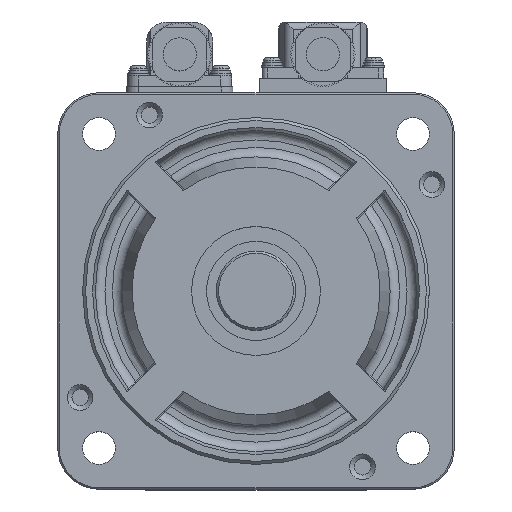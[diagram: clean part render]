
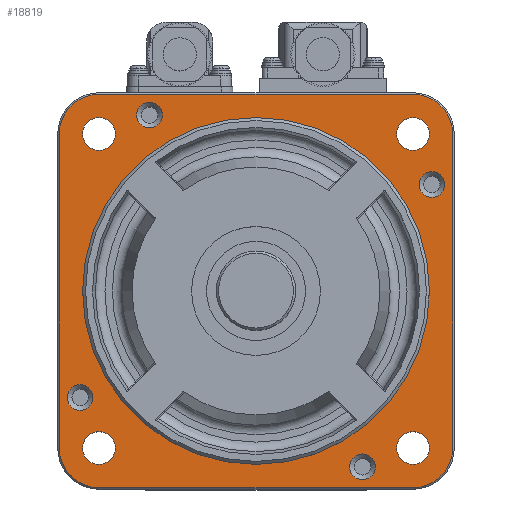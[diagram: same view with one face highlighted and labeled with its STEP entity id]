
A CAD part, top view. The second image highlights one B-rep face of the part: STEP entity #18819.
In plain terms, the highlighted planar face has unit normal (0, 0, 1).
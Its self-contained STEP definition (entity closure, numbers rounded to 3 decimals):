
#18287=CARTESIAN_POINT('',(-31.7,-39.7,0.0));
#18288=VERTEX_POINT('',#18287);
#18305=CARTESIAN_POINT('',(31.7,-39.7,0.0));
#18306=VERTEX_POINT('',#18305);
#18313=CARTESIAN_POINT('',(31.7,-39.7,0.0));
#18314=DIRECTION('',(-1.0,0.0,0.0));
#18315=VECTOR('',#18314,63.4);
#18316=LINE('',#18313,#18315);
#18317=EDGE_CURVE('',#18306,#18288,#18316,.T.);
#18327=CARTESIAN_POINT('',(-39.7,-31.7,0.0));
#18328=VERTEX_POINT('',#18327);
#18345=CARTESIAN_POINT('',(-31.7,-31.7,0.0));
#18346=DIRECTION('',(0.0,0.0,-1.0));
#18347=DIRECTION('',(-1.0,0.0,0.0));
#18348=AXIS2_PLACEMENT_3D('',#18345,#18346,#18347);
#18349=CIRCLE('',#18348,8.);
#18350=EDGE_CURVE('',#18288,#18328,#18349,.T.);
#18362=CARTESIAN_POINT('',(39.7,-31.7,0.0));
#18363=VERTEX_POINT('',#18362);
#18370=CARTESIAN_POINT('',(31.7,-31.7,0.0));
#18371=DIRECTION('',(0.0,0.0,-1.0));
#18372=DIRECTION('',(0.0,-1.0,0.0));
#18373=AXIS2_PLACEMENT_3D('',#18370,#18371,#18372);
#18374=CIRCLE('',#18373,8.);
#18375=EDGE_CURVE('',#18363,#18306,#18374,.T.);
#18393=CARTESIAN_POINT('',(-39.7,31.7,0.0));
#18394=VERTEX_POINT('',#18393);
#18410=CARTESIAN_POINT('',(-39.7,-31.7,0.0));
#18411=DIRECTION('',(0.0,1.0,0.0));
#18412=VECTOR('',#18411,63.4);
#18413=LINE('',#18410,#18412);
#18414=EDGE_CURVE('',#18328,#18394,#18413,.T.);
#18426=CARTESIAN_POINT('',(39.7,31.7,0.0));
#18427=VERTEX_POINT('',#18426);
#18434=CARTESIAN_POINT('',(39.7,31.7,0.0));
#18435=DIRECTION('',(0.0,-1.0,0.0));
#18436=VECTOR('',#18435,63.4);
#18437=LINE('',#18434,#18436);
#18438=EDGE_CURVE('',#18427,#18363,#18437,.T.);
#18455=CARTESIAN_POINT('',(-31.7,39.7,0.0));
#18456=VERTEX_POINT('',#18455);
#18473=CARTESIAN_POINT('',(-31.7,31.7,0.0));
#18474=DIRECTION('',(0.0,0.0,-1.0));
#18475=DIRECTION('',(0.0,1.0,0.0));
#18476=AXIS2_PLACEMENT_3D('',#18473,#18474,#18475);
#18477=CIRCLE('',#18476,8.);
#18478=EDGE_CURVE('',#18394,#18456,#18477,.T.);
#18490=CARTESIAN_POINT('',(31.7,39.7,0.0));
#18491=VERTEX_POINT('',#18490);
#18498=CARTESIAN_POINT('',(31.7,31.7,0.0));
#18499=DIRECTION('',(0.0,0.0,-1.0));
#18500=DIRECTION('',(1.0,0.0,0.0));
#18501=AXIS2_PLACEMENT_3D('',#18498,#18499,#18500);
#18502=CIRCLE('',#18501,8.);
#18503=EDGE_CURVE('',#18491,#18427,#18502,.T.);
#18522=CARTESIAN_POINT('',(-31.7,39.7,0.0));
#18523=DIRECTION('',(1.0,0.0,0.0));
#18524=VECTOR('',#18523,63.4);
#18525=LINE('',#18522,#18524);
#18526=EDGE_CURVE('',#18456,#18491,#18525,.T.);
#18705=CARTESIAN_POINT('',(0.,0.,0.0));
#18706=DIRECTION('',(0.0,0.0,1.0));
#18707=DIRECTION('',(1.0,0.0,0.0));
#18708=AXIS2_PLACEMENT_3D('',#18705,#18706,#18707);
#18709=PLANE('',#18708);
#18710=ORIENTED_EDGE('',*,*,#18317,.F.);
#18711=ORIENTED_EDGE('',*,*,#18375,.F.);
#18712=ORIENTED_EDGE('',*,*,#18438,.F.);
#18713=ORIENTED_EDGE('',*,*,#18503,.F.);
#18714=ORIENTED_EDGE('',*,*,#18526,.F.);
#18715=ORIENTED_EDGE('',*,*,#18478,.F.);
#18716=ORIENTED_EDGE('',*,*,#18414,.F.);
#18717=ORIENTED_EDGE('',*,*,#18350,.F.);
#18718=EDGE_LOOP('',(#18710,#18711,#18712,#18713,#18714,#18715,#18716,#18717));
#18719=FACE_OUTER_BOUND('',#18718,.T.);
#18720=CARTESIAN_POINT('',(35.0,0.,0.0));
#18721=VERTEX_POINT('',#18720);
#18722=CARTESIAN_POINT('',(0.0,0.0,0.0));
#18723=DIRECTION('',(0.0,0.0,-1.0));
#18724=DIRECTION('',(-1.0,0.0,0.0));
#18725=AXIS2_PLACEMENT_3D('',#18722,#18723,#18724);
#18726=CIRCLE('',#18725,35.0);
#18727=EDGE_CURVE('',#18721,#18721,#18726,.T.);
#18728=ORIENTED_EDGE('',*,*,#18727,.T.);
#18729=EDGE_LOOP('',(#18728));
#18730=FACE_BOUND('',#18729,.T.);
#18731=CARTESIAN_POINT('',(-28.4,31.7,0.0));
#18732=VERTEX_POINT('',#18731);
#18733=CARTESIAN_POINT('',(-31.7,31.7,0.0));
#18734=DIRECTION('',(0.0,0.0,-1.0));
#18735=DIRECTION('',(-1.0,0.0,0.0));
#18736=AXIS2_PLACEMENT_3D('',#18733,#18734,#18735);
#18737=CIRCLE('',#18736,3.3);
#18738=EDGE_CURVE('',#18732,#18732,#18737,.T.);
#18739=ORIENTED_EDGE('',*,*,#18738,.T.);
#18740=EDGE_LOOP('',(#18739));
#18741=FACE_BOUND('',#18740,.T.);
#18742=CARTESIAN_POINT('',(31.7,28.4,0.0));
#18743=VERTEX_POINT('',#18742);
#18744=CARTESIAN_POINT('',(31.7,31.7,0.0));
#18745=DIRECTION('',(0.0,0.0,-1.0));
#18746=DIRECTION('',(0.0,1.0,0.0));
#18747=AXIS2_PLACEMENT_3D('',#18744,#18745,#18746);
#18748=CIRCLE('',#18747,3.3);
#18749=EDGE_CURVE('',#18743,#18743,#18748,.T.);
#18750=ORIENTED_EDGE('',*,*,#18749,.T.);
#18751=EDGE_LOOP('',(#18750));
#18752=FACE_BOUND('',#18751,.T.);
#18753=CARTESIAN_POINT('',(-31.7,-28.4,0.0));
#18754=VERTEX_POINT('',#18753);
#18755=CARTESIAN_POINT('',(-31.7,-31.7,0.0));
#18756=DIRECTION('',(0.0,0.0,-1.0));
#18757=DIRECTION('',(0.0,-1.0,0.0));
#18758=AXIS2_PLACEMENT_3D('',#18755,#18756,#18757);
#18759=CIRCLE('',#18758,3.3);
#18760=EDGE_CURVE('',#18754,#18754,#18759,.T.);
#18761=ORIENTED_EDGE('',*,*,#18760,.T.);
#18762=EDGE_LOOP('',(#18761));
#18763=FACE_BOUND('',#18762,.T.);
#18764=CARTESIAN_POINT('',(28.4,-31.7,0.0));
#18765=VERTEX_POINT('',#18764);
#18766=CARTESIAN_POINT('',(31.7,-31.7,0.0));
#18767=DIRECTION('',(0.0,0.0,-1.0));
#18768=DIRECTION('',(1.0,0.0,0.0));
#18769=AXIS2_PLACEMENT_3D('',#18766,#18767,#18768);
#18770=CIRCLE('',#18769,3.3);
#18771=EDGE_CURVE('',#18765,#18765,#18770,.T.);
#18772=ORIENTED_EDGE('',*,*,#18771,.T.);
#18773=EDGE_LOOP('',(#18772));
#18774=FACE_BOUND('',#18773,.T.);
#18775=CARTESIAN_POINT('',(-21.5,38.1,0.0));
#18776=VERTEX_POINT('',#18775);
#18777=CARTESIAN_POINT('',(-21.5,35.5,0.0));
#18778=DIRECTION('',(0.0,0.0,-1.0));
#18779=DIRECTION('',(0.0,1.0,0.0));
#18780=AXIS2_PLACEMENT_3D('',#18777,#18778,#18779);
#18781=CIRCLE('',#18780,2.6);
#18782=EDGE_CURVE('',#18776,#18776,#18781,.T.);
#18783=ORIENTED_EDGE('',*,*,#18782,.T.);
#18784=EDGE_LOOP('',(#18783));
#18785=FACE_BOUND('',#18784,.T.);
#18786=CARTESIAN_POINT('',(-38.1,-21.5,0.0));
#18787=VERTEX_POINT('',#18786);
#18788=CARTESIAN_POINT('',(-35.5,-21.5,0.0));
#18789=DIRECTION('',(0.0,0.0,-1.0));
#18790=DIRECTION('',(-1.0,0.0,0.0));
#18791=AXIS2_PLACEMENT_3D('',#18788,#18789,#18790);
#18792=CIRCLE('',#18791,2.6);
#18793=EDGE_CURVE('',#18787,#18787,#18792,.T.);
#18794=ORIENTED_EDGE('',*,*,#18793,.T.);
#18795=EDGE_LOOP('',(#18794));
#18796=FACE_BOUND('',#18795,.T.);
#18797=CARTESIAN_POINT('',(21.5,-38.1,0.0));
#18798=VERTEX_POINT('',#18797);
#18799=CARTESIAN_POINT('',(21.5,-35.5,0.0));
#18800=DIRECTION('',(0.0,0.0,-1.0));
#18801=DIRECTION('',(0.0,-1.0,0.0));
#18802=AXIS2_PLACEMENT_3D('',#18799,#18800,#18801);
#18803=CIRCLE('',#18802,2.6);
#18804=EDGE_CURVE('',#18798,#18798,#18803,.T.);
#18805=ORIENTED_EDGE('',*,*,#18804,.T.);
#18806=EDGE_LOOP('',(#18805));
#18807=FACE_BOUND('',#18806,.T.);
#18808=CARTESIAN_POINT('',(38.1,21.5,0.0));
#18809=VERTEX_POINT('',#18808);
#18810=CARTESIAN_POINT('',(35.5,21.5,0.0));
#18811=DIRECTION('',(0.0,0.0,-1.0));
#18812=DIRECTION('',(1.0,0.0,0.0));
#18813=AXIS2_PLACEMENT_3D('',#18810,#18811,#18812);
#18814=CIRCLE('',#18813,2.6);
#18815=EDGE_CURVE('',#18809,#18809,#18814,.T.);
#18816=ORIENTED_EDGE('',*,*,#18815,.T.);
#18817=EDGE_LOOP('',(#18816));
#18818=FACE_BOUND('',#18817,.T.);
#18819=ADVANCED_FACE('',(#18719,#18730,#18741,#18752,#18763,#18774,#18785,#18796,#18807,#18818),#18709,.T.);
